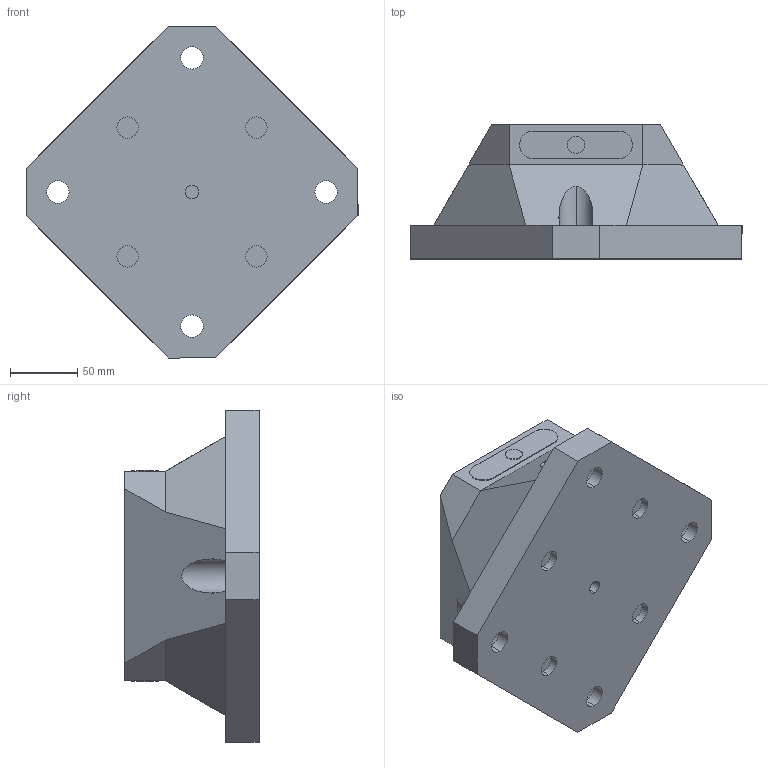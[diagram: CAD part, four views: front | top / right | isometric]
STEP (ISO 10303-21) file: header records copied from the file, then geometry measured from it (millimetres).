
FILE_DESCRIPTION (( 'STEP AP214' ), '1' );
FILE_NAME ('D_RL96A-488.STEP', '2020-03-11T16:30:39', ( '' ), ( '' ), 'SwSTEP 2.0', 'SolidWorks 2018', '' );
FILE_SCHEMA (( 'AUTOMOTIVE_DESIGN' ));
Length unit declared in the file: inch
Products named in the file (1): D_RL96A-488
Bounding box: 247.49 x 100 x 247.49 mm (x, y, z)
Volume: 2708486 mm3; surface area: 172880.2 mm2
Topology: 1 solids, 1 shells, 209 faces, 512 edges, 334 vertices
Faces by surface type: cylinder 118, plane 87, cone 4
Entity records: 7380 total; most frequent: CARTESIAN_POINT 1608, DIRECTION 1114, ORIENTED_EDGE 1016, EDGE_CURVE 508, AXIS2_PLACEMENT_3D 440, VERTEX_POINT 334, EDGE_LOOP 258, LINE 234
